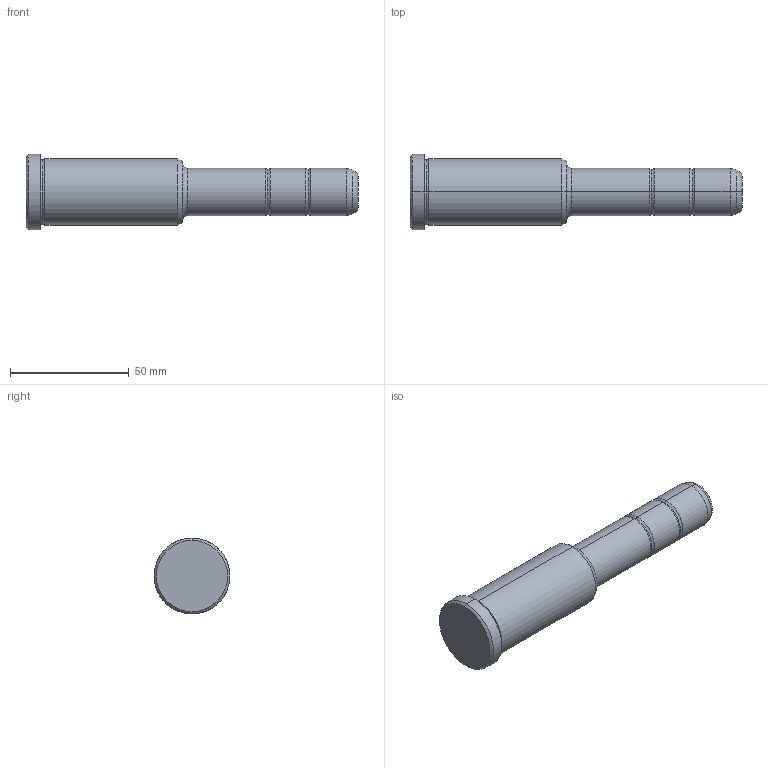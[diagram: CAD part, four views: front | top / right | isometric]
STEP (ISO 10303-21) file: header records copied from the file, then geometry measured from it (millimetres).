
FILE_DESCRIPTION(('CATIA V5 STEP Exchange'),'2;1');
FILE_NAME('C:\Users\Utente\Desktop\IO LAVORO\3D X SITO CF\X SITO\PLASTICA\351\351-20X66X140.stp','2021-08-27T13:15:37+00:00',('none'),('none'),'CATIA Version 5 Release 20 GA (IN-10)','CATIA V5 STEP AP203','none');
FILE_SCHEMA(('CONFIG_CONTROL_DESIGN'));
Length unit declared in the file: millimetre
Products named in the file (1): 351-20X66X140
Bounding box: 140 x 32 x 32 mm (x, y, z)
Volume: 64526.2 mm3; surface area: 11873.2 mm2
Topology: 1 solids, 1 shells, 36 faces, 102 edges, 70 vertices
Faces by surface type: torus 16, cylinder 10, cone 6, plane 4
Entity records: 1292 total; most frequent: CARTESIAN_POINT 321, ORIENTED_EDGE 204, DIRECTION 166, AXIS2_PLACEMENT_3D 115, EDGE_CURVE 102, CIRCLE 78, VERTEX_POINT 70, EDGE_LOOP 38
